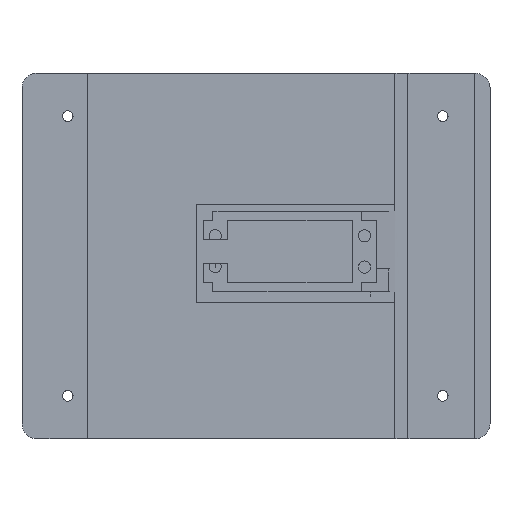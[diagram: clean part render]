
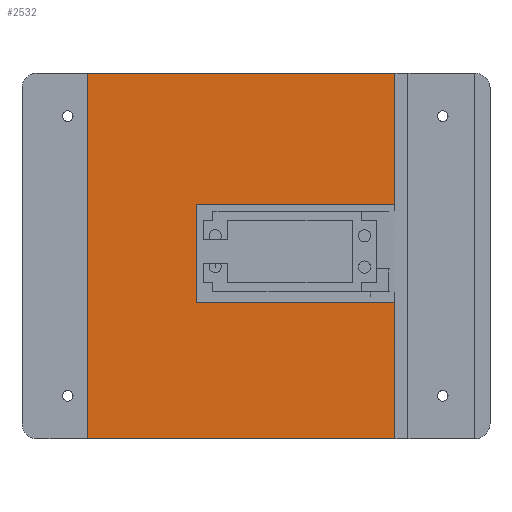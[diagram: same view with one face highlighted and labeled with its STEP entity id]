
A CAD part, front view. The second image highlights one B-rep face of the part: STEP entity #2532.
In plain terms, the highlighted planar face has unit normal (0, -1, 0).
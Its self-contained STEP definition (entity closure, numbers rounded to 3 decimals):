
#154=PLANE('',#2707);
#275=FACE_OUTER_BOUND('',#413,.T.);
#413=EDGE_LOOP('',(#1969,#1970,#1971,#1972,#1973,#1974,#1975,#1976));
#528=LINE('',#3656,#807);
#534=LINE('',#3804,#813);
#561=LINE('',#5336,#840);
#569=LINE('',#5651,#848);
#570=LINE('',#5653,#849);
#571=LINE('',#5655,#850);
#572=LINE('',#5657,#851);
#573=LINE('',#5658,#852);
#807=VECTOR('',#2858,120.);
#813=VECTOR('',#2878,120.);
#840=VECTOR('',#2991,10.);
#848=VECTOR('',#3011,10.);
#849=VECTOR('',#3012,10.);
#850=VECTOR('',#3013,10.);
#851=VECTOR('',#3014,10.);
#852=VECTOR('',#3015,10.);
#1139=VERTEX_POINT('',#3653);
#1140=VERTEX_POINT('',#3655);
#1144=VERTEX_POINT('',#3713);
#1158=VERTEX_POINT('',#3758);
#1195=VERTEX_POINT('',#5650);
#1196=VERTEX_POINT('',#5652);
#1197=VERTEX_POINT('',#5654);
#1198=VERTEX_POINT('',#5656);
#1382=EDGE_CURVE('',#1139,#1140,#528,.T.);
#1401=EDGE_CURVE('',#1144,#1158,#534,.T.);
#1471=EDGE_CURVE('',#1139,#1144,#561,.T.);
#1479=EDGE_CURVE('',#1195,#1158,#569,.T.);
#1480=EDGE_CURVE('',#1196,#1195,#570,.T.);
#1481=EDGE_CURVE('',#1197,#1196,#571,.T.);
#1482=EDGE_CURVE('',#1198,#1197,#572,.T.);
#1483=EDGE_CURVE('',#1140,#1198,#573,.T.);
#1969=ORIENTED_EDGE('',*,*,#1471,.T.);
#1970=ORIENTED_EDGE('',*,*,#1401,.T.);
#1971=ORIENTED_EDGE('',*,*,#1479,.F.);
#1972=ORIENTED_EDGE('',*,*,#1480,.F.);
#1973=ORIENTED_EDGE('',*,*,#1481,.F.);
#1974=ORIENTED_EDGE('',*,*,#1482,.F.);
#1975=ORIENTED_EDGE('',*,*,#1483,.F.);
#1976=ORIENTED_EDGE('',*,*,#1382,.F.);
#2532=ADVANCED_FACE('',(#275),#154,.T.);
#2707=AXIS2_PLACEMENT_3D('',#5649,#3009,#3010);
#2858=DIRECTION('',(1.,0.,0.));
#2878=DIRECTION('',(1.,0.,0.));
#2991=DIRECTION('',(0.,0.,-1.));
#3009=DIRECTION('center_axis',(0.,-1.,0.));
#3010=DIRECTION('ref_axis',(0.,0.,-1.));
#3011=DIRECTION('',(0.,0.,-1.));
#3012=DIRECTION('',(1.,0.,0.));
#3013=DIRECTION('',(0.,0.,-1.));
#3014=DIRECTION('',(-1.,0.,0.));
#3015=DIRECTION('',(0.,0.,-1.));
#3653=CARTESIAN_POINT('',(24.103,116.927,128.088));
#3655=CARTESIAN_POINT('',(124.97,116.929,128.088));
#3656=CARTESIAN_POINT('',(7.618,116.927,128.088));
#3713=CARTESIAN_POINT('',(24.103,116.927,8.088));
#3758=CARTESIAN_POINT('',(124.97,116.928,8.086));
#3804=CARTESIAN_POINT('',(7.618,116.927,8.088));
#5336=CARTESIAN_POINT('',(24.103,116.927,34.047));
#5649=CARTESIAN_POINT('Origin',(0.,116.927,0.));
#5650=CARTESIAN_POINT('',(124.97,116.927,52.778));
#5651=CARTESIAN_POINT('',(124.97,116.929,128.088));
#5652=CARTESIAN_POINT('',(60.,116.927,52.778));
#5653=CARTESIAN_POINT('',(62.485,116.927,52.778));
#5654=CARTESIAN_POINT('',(60.,116.927,85.));
#5655=CARTESIAN_POINT('',(60.,116.927,26.389));
#5656=CARTESIAN_POINT('',(124.97,116.927,85.));
#5657=CARTESIAN_POINT('',(30.,116.927,85.));
#5658=CARTESIAN_POINT('',(124.97,116.929,128.088));
